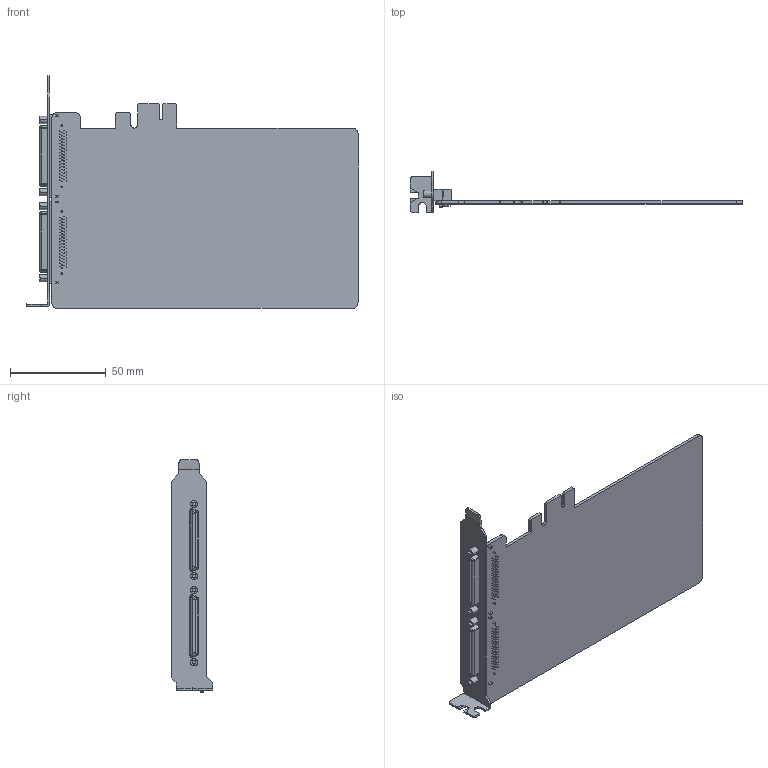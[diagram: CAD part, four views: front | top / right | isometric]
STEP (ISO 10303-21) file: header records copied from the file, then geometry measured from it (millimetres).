
FILE_DESCRIPTION((''),'2;1');
FILE_NAME('CP-116E-A_ASM','2014-09-23T',('Vincent_Huang'),(''),'PRO/ENGINEER BY PARAMETRIC TECHNOLOGY CORPORATION, 2004320','PRO/ENGINEER BY PARAMETRIC TECHNOLOGY CORPORATION, 2004320','');
FILE_SCHEMA(('CONFIG_CONTROL_DESIGN'));
Length unit declared in the file: millimetre
Products named in the file (5): CP-116E-A_PCB; 1126023000000_VHDCI-CONN_DIP; 140100000200_BRACKET; SPACER_M2X6L; CP-116E-A_ASM
Assembly tree (8 placements, depth 2):
  CP-116E-A_ASM
    CP-116E-A_PCB
    1126023000000_VHDCI-CONN_DIP  x2
    140100000200_BRACKET
    SPACER_M2X6L  x4
Bounding box: 173.42 x 21.59 x 121.7 mm (x, y, z)
Surface area: 41616.3 mm2 (no closed solid volume)
Topology: 0 solids, 12 shells, 723 faces, 1601 edges, 1046 vertices
Faces by surface type: cylinder 382, plane 309, torus 16, bspline 12, sphere 4
Entity records: 11607 total; most frequent: CARTESIAN_POINT 2244, DIRECTION 2067, ORIENTED_EDGE 1774, EDGE_CURVE 889, AXIS2_PLACEMENT_3D 797, VERTEX_POINT 578, EDGE_LOOP 485, VECTOR 473
